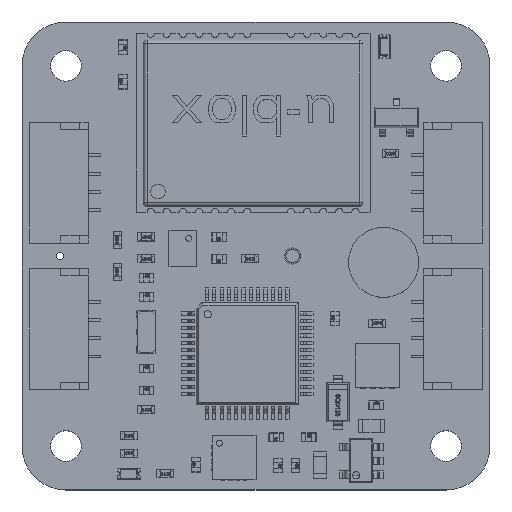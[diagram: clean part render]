
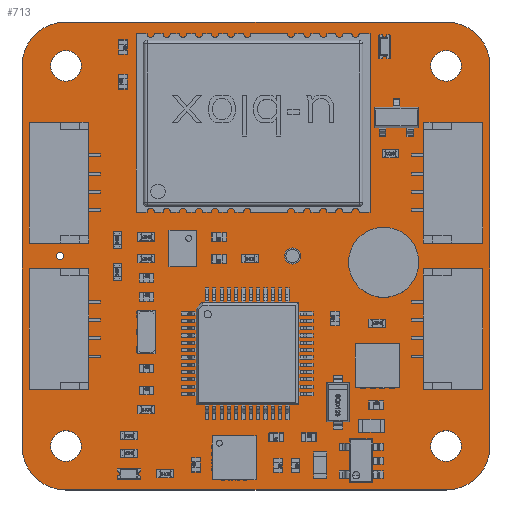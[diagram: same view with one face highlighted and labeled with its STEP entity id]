
A CAD part, top view. The second image highlights one B-rep face of the part: STEP entity #713.
In plain terms, the highlighted planar face has unit normal (0, 0, 1).
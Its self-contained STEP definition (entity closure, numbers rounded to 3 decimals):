
#232 = VERTEX_POINT('',#233);
#233 = CARTESIAN_POINT('',(-16.,-13.,0.624));
#239 = EDGE_CURVE('',#232,#240,#242,.T.);
#240 = VERTEX_POINT('',#241);
#241 = CARTESIAN_POINT('',(-16.,13.,0.624));
#242 = LINE('',#243,#244);
#243 = CARTESIAN_POINT('',(-16.,-13.,0.624));
#244 = VECTOR('',#245,1.);
#245 = DIRECTION('',(0.,1.,0.));
#270 = EDGE_CURVE('',#240,#271,#273,.T.);
#271 = VERTEX_POINT('',#272);
#272 = CARTESIAN_POINT('',(-13.,16.,0.624));
#273 = CIRCLE('',#274,3.001);
#274 = AXIS2_PLACEMENT_3D('',#275,#276,#277);
#275 = CARTESIAN_POINT('',(-12.999,12.999,0.624));
#276 = DIRECTION('',(0.,0.,-1.));
#277 = DIRECTION('',(-1.,0.,0.));
#303 = EDGE_CURVE('',#271,#304,#306,.T.);
#304 = VERTEX_POINT('',#305);
#305 = CARTESIAN_POINT('',(13.,16.,0.624));
#306 = LINE('',#307,#308);
#307 = CARTESIAN_POINT('',(-13.,16.,0.624));
#308 = VECTOR('',#309,1.);
#309 = DIRECTION('',(1.,0.,0.));
#334 = EDGE_CURVE('',#304,#335,#337,.T.);
#335 = VERTEX_POINT('',#336);
#336 = CARTESIAN_POINT('',(16.,13.,0.624));
#337 = CIRCLE('',#338,3.001);
#338 = AXIS2_PLACEMENT_3D('',#339,#340,#341);
#339 = CARTESIAN_POINT('',(12.999,12.999,0.624));
#340 = DIRECTION('',(0.,0.,-1.));
#341 = DIRECTION('',(0.,1.,0.));
#367 = EDGE_CURVE('',#335,#368,#370,.T.);
#368 = VERTEX_POINT('',#369);
#369 = CARTESIAN_POINT('',(16.,-13.,0.624));
#370 = LINE('',#371,#372);
#371 = CARTESIAN_POINT('',(16.,13.,0.624));
#372 = VECTOR('',#373,1.);
#373 = DIRECTION('',(0.,-1.,0.));
#398 = EDGE_CURVE('',#368,#399,#401,.T.);
#399 = VERTEX_POINT('',#400);
#400 = CARTESIAN_POINT('',(13.,-16.,0.624));
#401 = CIRCLE('',#402,3.001);
#402 = AXIS2_PLACEMENT_3D('',#403,#404,#405);
#403 = CARTESIAN_POINT('',(12.999,-12.999,0.624));
#404 = DIRECTION('',(0.,0.,-1.));
#405 = DIRECTION('',(1.,0.,0.));
#431 = EDGE_CURVE('',#399,#432,#434,.T.);
#432 = VERTEX_POINT('',#433);
#433 = CARTESIAN_POINT('',(-13.,-16.,0.624));
#434 = LINE('',#435,#436);
#435 = CARTESIAN_POINT('',(13.,-16.,0.624));
#436 = VECTOR('',#437,1.);
#437 = DIRECTION('',(-1.,0.,0.));
#462 = EDGE_CURVE('',#432,#232,#463,.T.);
#463 = CIRCLE('',#464,3.001);
#464 = AXIS2_PLACEMENT_3D('',#465,#466,#467);
#465 = CARTESIAN_POINT('',(-12.999,-12.999,0.624));
#466 = DIRECTION('',(0.,0.,-1.));
#467 = DIRECTION('',(0.,-1.,0.));
#488 = VERTEX_POINT('',#489);
#489 = CARTESIAN_POINT('',(-11.95,-13.,0.624));
#495 = EDGE_CURVE('',#488,#488,#496,.T.);
#496 = CIRCLE('',#497,1.05);
#497 = AXIS2_PLACEMENT_3D('',#498,#499,#500);
#498 = CARTESIAN_POINT('',(-13.,-13.,0.624));
#499 = DIRECTION('',(0.,0.,1.));
#500 = DIRECTION('',(1.,0.,0.));
#521 = VERTEX_POINT('',#522);
#522 = CARTESIAN_POINT('',(-13.15,0.,0.624));
#528 = EDGE_CURVE('',#521,#521,#529,.T.);
#529 = CIRCLE('',#530,0.25);
#530 = AXIS2_PLACEMENT_3D('',#531,#532,#533);
#531 = CARTESIAN_POINT('',(-13.4,0.,0.624));
#532 = DIRECTION('',(0.,0.,1.));
#533 = DIRECTION('',(1.,0.,0.));
#554 = VERTEX_POINT('',#555);
#555 = CARTESIAN_POINT('',(-11.95,13.,0.624));
#561 = EDGE_CURVE('',#554,#554,#562,.T.);
#562 = CIRCLE('',#563,1.05);
#563 = AXIS2_PLACEMENT_3D('',#564,#565,#566);
#564 = CARTESIAN_POINT('',(-13.,13.,0.624));
#565 = DIRECTION('',(0.,0.,1.));
#566 = DIRECTION('',(1.,0.,0.));
#587 = VERTEX_POINT('',#588);
#588 = CARTESIAN_POINT('',(14.05,-13.,0.624));
#594 = EDGE_CURVE('',#587,#587,#595,.T.);
#595 = CIRCLE('',#596,1.05);
#596 = AXIS2_PLACEMENT_3D('',#597,#598,#599);
#597 = CARTESIAN_POINT('',(13.,-13.,0.624));
#598 = DIRECTION('',(0.,0.,1.));
#599 = DIRECTION('',(1.,0.,0.));
#620 = VERTEX_POINT('',#621);
#621 = CARTESIAN_POINT('',(3.05,0.,0.624));
#627 = EDGE_CURVE('',#620,#620,#628,.T.);
#628 = CIRCLE('',#629,0.55);
#629 = AXIS2_PLACEMENT_3D('',#630,#631,#632);
#630 = CARTESIAN_POINT('',(2.5,0.,0.624));
#631 = DIRECTION('',(0.,0.,1.));
#632 = DIRECTION('',(1.,0.,0.));
#653 = VERTEX_POINT('',#654);
#654 = CARTESIAN_POINT('',(14.05,13.,0.624));
#660 = EDGE_CURVE('',#653,#653,#661,.T.);
#661 = CIRCLE('',#662,1.05);
#662 = AXIS2_PLACEMENT_3D('',#663,#664,#665);
#663 = CARTESIAN_POINT('',(13.,13.,0.624));
#664 = DIRECTION('',(0.,0.,1.));
#665 = DIRECTION('',(1.,0.,0.));
#713 = ADVANCED_FACE('',(#714,#724,#727,#730,#733,#736,#739),#742,.T.);
#714 = FACE_BOUND('',#715,.F.);
#715 = EDGE_LOOP('',(#716,#717,#718,#719,#720,#721,#722,#723));
#716 = ORIENTED_EDGE('',*,*,#239,.T.);
#717 = ORIENTED_EDGE('',*,*,#270,.T.);
#718 = ORIENTED_EDGE('',*,*,#303,.T.);
#719 = ORIENTED_EDGE('',*,*,#334,.T.);
#720 = ORIENTED_EDGE('',*,*,#367,.T.);
#721 = ORIENTED_EDGE('',*,*,#398,.T.);
#722 = ORIENTED_EDGE('',*,*,#431,.T.);
#723 = ORIENTED_EDGE('',*,*,#462,.T.);
#724 = FACE_BOUND('',#725,.T.);
#725 = EDGE_LOOP('',(#726));
#726 = ORIENTED_EDGE('',*,*,#495,.F.);
#727 = FACE_BOUND('',#728,.T.);
#728 = EDGE_LOOP('',(#729));
#729 = ORIENTED_EDGE('',*,*,#528,.F.);
#730 = FACE_BOUND('',#731,.T.);
#731 = EDGE_LOOP('',(#732));
#732 = ORIENTED_EDGE('',*,*,#561,.F.);
#733 = FACE_BOUND('',#734,.T.);
#734 = EDGE_LOOP('',(#735));
#735 = ORIENTED_EDGE('',*,*,#594,.F.);
#736 = FACE_BOUND('',#737,.T.);
#737 = EDGE_LOOP('',(#738));
#738 = ORIENTED_EDGE('',*,*,#627,.F.);
#739 = FACE_BOUND('',#740,.T.);
#740 = EDGE_LOOP('',(#741));
#741 = ORIENTED_EDGE('',*,*,#660,.F.);
#742 = PLANE('',#743);
#743 = AXIS2_PLACEMENT_3D('',#744,#745,#746);
#744 = CARTESIAN_POINT('',(-16.,-13.,0.624));
#745 = DIRECTION('',(0.,0.,1.));
#746 = DIRECTION('',(1.,0.,0.));
